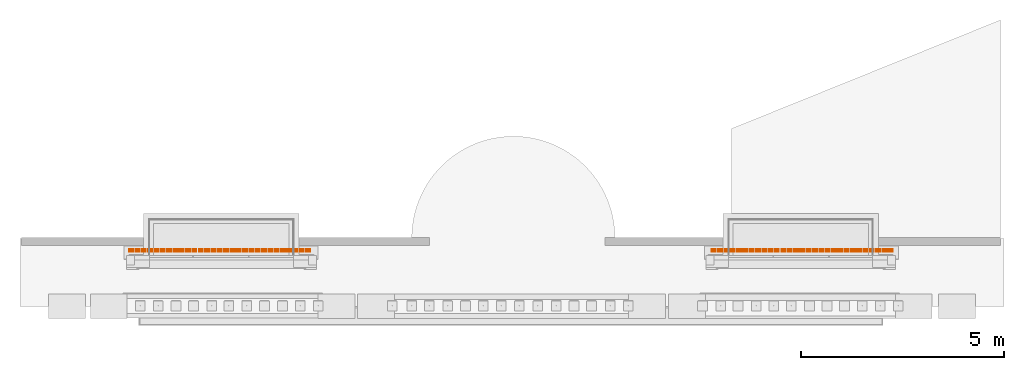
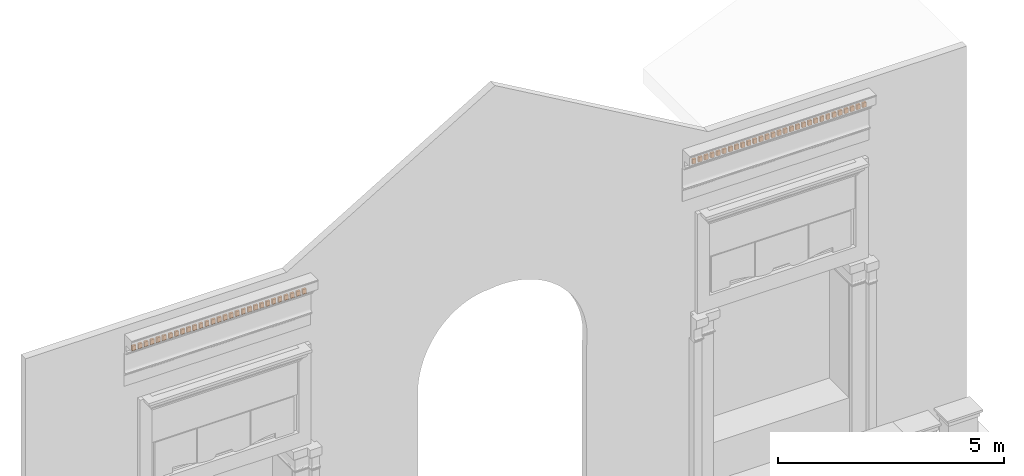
# One storey, part 8 of 14: 1 proxy.
"""IFC2X3 building model written with IfcOpenShell, lengths in metres."""

from ifc_helpers import new_model, entity, si_unit, converted_unit, derived_unit, direction, frame, frame_2d, origin, place, context, subcontext, project, spatial, rectangle, extrude, source, transform, mapped, material, type_object, type_shapes, element, save


model = new_model("IFC2X3")

# Units and contexts
model_context = context("Model", 3, precision=1e-05, world=origin(), true_north=direction((6.12303176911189e-17, 1.0)))
body_context = subcontext(model_context, "Body", "Model", "MODEL_VIEW")
ifc_project = project(units=[si_unit("LENGTHUNIT", "METRE"), si_unit("AREAUNIT", "SQUARE_METRE"), si_unit("VOLUMEUNIT", "CUBIC_METRE"), converted_unit("PLANEANGLEUNIT", "DEGREE", entity("IfcRatioMeasure", 0.0174532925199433), si_unit("PLANEANGLEUNIT", "RADIAN"), dimensions=[0, 0, 0, 0, 0, 0, 0]), si_unit("MASSUNIT", "GRAM", prefix="KILO"), derived_unit("MASSDENSITYUNIT", [(si_unit("MASSUNIT", "GRAM", prefix="KILO"), 1), (si_unit("LENGTHUNIT", "METRE"), -3)]), si_unit("TIMEUNIT", "SECOND"), si_unit("FREQUENCYUNIT", "HERTZ"), si_unit("THERMODYNAMICTEMPERATUREUNIT", "DEGREE_CELSIUS"), derived_unit("THERMALTRANSMITTANCEUNIT", [(si_unit("MASSUNIT", "GRAM", prefix="KILO"), 1), (si_unit("THERMODYNAMICTEMPERATUREUNIT", "KELVIN"), -1), (si_unit("TIMEUNIT", "SECOND"), -3)]), derived_unit("VOLUMETRICFLOWRATEUNIT", [(si_unit("LENGTHUNIT", "METRE"), 3), (si_unit("TIMEUNIT", "SECOND"), -1)]), si_unit("ELECTRICCURRENTUNIT", "AMPERE"), si_unit("ELECTRICVOLTAGEUNIT", "VOLT"), si_unit("POWERUNIT", "WATT"), si_unit("FORCEUNIT", "NEWTON", prefix="KILO"), si_unit("ILLUMINANCEUNIT", "LUX"), si_unit("LUMINOUSFLUXUNIT", "LUMEN"), si_unit("LUMINOUSINTENSITYUNIT", "CANDELA"), derived_unit("USERDEFINED", [(si_unit("MASSUNIT", "GRAM", prefix="KILO"), -1), (si_unit("LENGTHUNIT", "METRE"), -2), (si_unit("TIMEUNIT", "SECOND"), 3), (si_unit("LUMINOUSFLUXUNIT", "LUMEN"), 1)]), derived_unit("LINEARVELOCITYUNIT", [(si_unit("LENGTHUNIT", "METRE"), 1), (si_unit("TIMEUNIT", "SECOND"), -1)]), si_unit("PRESSUREUNIT", "PASCAL"), derived_unit("USERDEFINED", [(si_unit("LENGTHUNIT", "METRE"), -2), (si_unit("MASSUNIT", "GRAM", prefix="KILO"), 1), (si_unit("TIMEUNIT", "SECOND"), -2)])], contexts=[model_context])

# Site, building, storey
site_placement = place(None, origin())
site = spatial("IfcSite", under=ifc_project, at=site_placement, Name="Default", CompositionType="ELEMENT")
building_placement = place(site_placement, origin())
building = spatial("IfcBuilding", under=site, at=building_placement, CompositionType="ELEMENT")
storey_placement = place(building_placement, frame((0.0, 0.0, 13.366833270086)))
storey = spatial("IfcBuildingStorey", under=building, at=storey_placement, Name="Livello 2", CompositionType="ELEMENT", Elevation=13.366833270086)

# Proxy
ifc_material = material(Name="Piperno")
building_element_proxy_type = type_object("IfcBuildingElementProxyType", Name="Dentelli", PredefinedType="NOTDEFINED", material=ifc_material)
shared_shape = source(origin(), body_context, "Body", "SweptSolid", [
    extrude(rectangle(XDim=0.0534615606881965, YDim=0.0951819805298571, at=frame_2d((-1.35308431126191e-16, 0.0), x_axis=(1.0, 0.0))), frame((18.7313561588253, 0.0267307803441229, 0.0279844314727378), z_axis=(0.0, 0.0, 1.0), x_axis=(0.0, 1.0, 0.0)), (0.0, 0.0, 1.0), 0.126428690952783),
    extrude(rectangle(XDim=0.0534615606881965, YDim=0.0951819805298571, at=frame_2d((-1.35308431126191e-16, 0.0), x_axis=(1.0, 0.0))), frame((18.5766416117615, 0.0267307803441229, 0.0279844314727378), z_axis=(0.0, 0.0, 1.0), x_axis=(0.0, 1.0, 0.0)), (0.0, 0.0, 1.0), 0.126428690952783),
    extrude(rectangle(XDim=0.0534615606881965, YDim=0.0951819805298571, at=frame_2d((-1.35308431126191e-16, 0.0), x_axis=(1.0, 0.0))), frame((18.4219270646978, 0.0267307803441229, 0.0279844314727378), z_axis=(0.0, 0.0, 1.0), x_axis=(0.0, 1.0, 0.0)), (0.0, 0.0, 1.0), 0.126428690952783),
    extrude(rectangle(XDim=0.0534615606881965, YDim=0.0951819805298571, at=frame_2d((-1.35308431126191e-16, 0.0), x_axis=(1.0, 0.0))), frame((18.267212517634, 0.0267307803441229, 0.0279844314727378), z_axis=(0.0, 0.0, 1.0), x_axis=(0.0, 1.0, 0.0)), (0.0, 0.0, 1.0), 0.126428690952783),
    extrude(rectangle(XDim=0.0534615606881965, YDim=0.0951819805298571, at=frame_2d((-1.35308431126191e-16, 0.0), x_axis=(1.0, 0.0))), frame((18.1124979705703, 0.0267307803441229, 0.0279844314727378), z_axis=(0.0, 0.0, 1.0), x_axis=(0.0, 1.0, 0.0)), (0.0, 0.0, 1.0), 0.126428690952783),
    extrude(rectangle(XDim=0.0534615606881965, YDim=0.0951819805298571, at=frame_2d((-1.35308431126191e-16, 0.0), x_axis=(1.0, 0.0))), frame((17.9577834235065, 0.0267307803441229, 0.0279844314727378), z_axis=(0.0, 0.0, 1.0), x_axis=(0.0, 1.0, 0.0)), (0.0, 0.0, 1.0), 0.126428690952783),
    extrude(rectangle(XDim=0.0534615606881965, YDim=0.0951819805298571, at=frame_2d((-1.35308431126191e-16, 0.0), x_axis=(1.0, 0.0))), frame((17.8030688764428, 0.0267307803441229, 0.0279844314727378), z_axis=(0.0, 0.0, 1.0), x_axis=(0.0, 1.0, 0.0)), (0.0, 0.0, 1.0), 0.126428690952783),
    extrude(rectangle(XDim=0.0534615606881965, YDim=0.0951819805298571, at=frame_2d((-1.35308431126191e-16, 0.0), x_axis=(1.0, 0.0))), frame((17.6483543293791, 0.0267307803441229, 0.0279844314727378), z_axis=(0.0, 0.0, 1.0), x_axis=(0.0, 1.0, 0.0)), (0.0, 0.0, 1.0), 0.126428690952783),
    extrude(rectangle(XDim=0.0534615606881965, YDim=0.0951819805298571, at=frame_2d((-1.35308431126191e-16, 0.0), x_axis=(1.0, 0.0))), frame((17.4888420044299, 0.0267307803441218, 0.0279844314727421), z_axis=(0.0, 0.0, 1.0), x_axis=(0.0, 1.0, 0.0)), (0.0, 0.0, 1.0), 0.126428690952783),
    extrude(rectangle(XDim=0.0534615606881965, YDim=0.0951819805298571, at=frame_2d((-1.35308431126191e-16, 0.0), x_axis=(1.0, 0.0))), frame((17.3341274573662, 0.0267307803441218, 0.0279844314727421), z_axis=(0.0, 0.0, 1.0), x_axis=(0.0, 1.0, 0.0)), (0.0, 0.0, 1.0), 0.126428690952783),
    extrude(rectangle(XDim=0.0534615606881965, YDim=0.0951819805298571, at=frame_2d((-1.35308431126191e-16, 0.0), x_axis=(1.0, 0.0))), frame((17.1794129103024, 0.0267307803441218, 0.0279844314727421), z_axis=(0.0, 0.0, 1.0), x_axis=(0.0, 1.0, 0.0)), (0.0, 0.0, 1.0), 0.126428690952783),
    extrude(rectangle(XDim=0.0534615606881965, YDim=0.0951819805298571, at=frame_2d((-1.35308431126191e-16, 0.0), x_axis=(1.0, 0.0))), frame((17.0246983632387, 0.0267307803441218, 0.0279844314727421), z_axis=(0.0, 0.0, 1.0), x_axis=(0.0, 1.0, 0.0)), (0.0, 0.0, 1.0), 0.126428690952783),
    extrude(rectangle(XDim=0.0534615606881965, YDim=0.0951819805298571, at=frame_2d((-1.35308431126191e-16, 0.0), x_axis=(1.0, 0.0))), frame((16.8699838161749, 0.0267307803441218, 0.0279844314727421), z_axis=(0.0, 0.0, 1.0), x_axis=(0.0, 1.0, 0.0)), (0.0, 0.0, 1.0), 0.126428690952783),
    extrude(rectangle(XDim=0.0534615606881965, YDim=0.0951819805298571, at=frame_2d((-1.35308431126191e-16, 0.0), x_axis=(1.0, 0.0))), frame((16.7104714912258, 0.0267307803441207, 0.0279844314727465), z_axis=(0.0, 0.0, 1.0), x_axis=(0.0, 1.0, 0.0)), (0.0, 0.0, 1.0), 0.126428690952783),
    extrude(rectangle(XDim=0.0534615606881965, YDim=0.0951819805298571, at=frame_2d((-1.35308431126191e-16, 0.0), x_axis=(1.0, 0.0))), frame((16.5557569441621, 0.0267307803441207, 0.0279844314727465), z_axis=(0.0, 0.0, 1.0), x_axis=(0.0, 1.0, 0.0)), (0.0, 0.0, 1.0), 0.126428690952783),
    extrude(rectangle(XDim=0.0534615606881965, YDim=0.0951819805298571, at=frame_2d((-1.35308431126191e-16, 0.0), x_axis=(1.0, 0.0))), frame((16.4010423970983, 0.0267307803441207, 0.0279844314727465), z_axis=(0.0, 0.0, 1.0), x_axis=(0.0, 1.0, 0.0)), (0.0, 0.0, 1.0), 0.126428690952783),
    extrude(rectangle(XDim=0.0534615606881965, YDim=0.0951819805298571, at=frame_2d((-1.35308431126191e-16, 0.0), x_axis=(1.0, 0.0))), frame((16.2463278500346, 0.0267307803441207, 0.0279844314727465), z_axis=(0.0, 0.0, 1.0), x_axis=(0.0, 1.0, 0.0)), (0.0, 0.0, 1.0), 0.126428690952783),
    extrude(rectangle(XDim=0.0534615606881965, YDim=0.0951819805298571, at=frame_2d((-1.35308431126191e-16, 0.0), x_axis=(1.0, 0.0))), frame((16.0916133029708, 0.0267307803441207, 0.0279844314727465), z_axis=(0.0, 0.0, 1.0), x_axis=(0.0, 1.0, 0.0)), (0.0, 0.0, 1.0), 0.126428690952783),
    extrude(rectangle(XDim=0.0534615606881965, YDim=0.0951819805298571, at=frame_2d((-1.35308431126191e-16, 0.0), x_axis=(1.0, 0.0))), frame((15.9321009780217, 0.0267307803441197, 0.0279844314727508), z_axis=(0.0, 0.0, 1.0), x_axis=(0.0, 1.0, 0.0)), (0.0, 0.0, 1.0), 0.126428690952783),
    extrude(rectangle(XDim=0.0534615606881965, YDim=0.0951819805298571, at=frame_2d((-1.35308431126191e-16, 0.0), x_axis=(1.0, 0.0))), frame((15.777386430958, 0.0267307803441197, 0.0279844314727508), z_axis=(0.0, 0.0, 1.0), x_axis=(0.0, 1.0, 0.0)), (0.0, 0.0, 1.0), 0.126428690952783),
    extrude(rectangle(XDim=0.0534615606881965, YDim=0.0951819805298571, at=frame_2d((-1.35308431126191e-16, 0.0), x_axis=(1.0, 0.0))), frame((15.6226718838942, 0.0267307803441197, 0.0279844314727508), z_axis=(0.0, 0.0, 1.0), x_axis=(0.0, 1.0, 0.0)), (0.0, 0.0, 1.0), 0.126428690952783),
    extrude(rectangle(XDim=0.0534615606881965, YDim=0.0951819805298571, at=frame_2d((-1.35308431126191e-16, 0.0), x_axis=(1.0, 0.0))), frame((15.4679573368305, 0.0267307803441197, 0.0279844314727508), z_axis=(0.0, 0.0, 1.0), x_axis=(0.0, 1.0, 0.0)), (0.0, 0.0, 1.0), 0.126428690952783),
    extrude(rectangle(XDim=0.0534615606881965, YDim=0.0951819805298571, at=frame_2d((-1.35308431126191e-16, 0.0), x_axis=(1.0, 0.0))), frame((15.3132427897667, 0.0267307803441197, 0.0279844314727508), z_axis=(0.0, 0.0, 1.0), x_axis=(0.0, 1.0, 0.0)), (0.0, 0.0, 1.0), 0.126428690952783),
    extrude(rectangle(XDim=0.0534615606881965, YDim=0.0951819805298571, at=frame_2d((-1.35308431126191e-16, 0.0), x_axis=(1.0, 0.0))), frame((15.1537304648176, 0.0267307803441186, 0.0279844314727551), z_axis=(0.0, 0.0, 1.0), x_axis=(0.0, 1.0, 0.0)), (0.0, 0.0, 1.0), 0.126428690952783),
    extrude(rectangle(XDim=0.0534615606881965, YDim=0.0951819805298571, at=frame_2d((-1.35308431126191e-16, 0.0), x_axis=(1.0, 0.0))), frame((14.9990159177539, 0.0267307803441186, 0.0279844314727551), z_axis=(0.0, 0.0, 1.0), x_axis=(0.0, 1.0, 0.0)), (0.0, 0.0, 1.0), 0.126428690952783),
    extrude(rectangle(XDim=0.0534615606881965, YDim=0.0951819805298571, at=frame_2d((-1.35308431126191e-16, 0.0), x_axis=(1.0, 0.0))), frame((14.8443013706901, 0.0267307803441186, 0.0279844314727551), z_axis=(0.0, 0.0, 1.0), x_axis=(0.0, 1.0, 0.0)), (0.0, 0.0, 1.0), 0.126428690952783),
    extrude(rectangle(XDim=0.0534615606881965, YDim=0.0951819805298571, at=frame_2d((-1.35308431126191e-16, 0.0), x_axis=(1.0, 0.0))), frame((14.6895868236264, 0.0267307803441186, 0.0279844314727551), z_axis=(0.0, 0.0, 1.0), x_axis=(0.0, 1.0, 0.0)), (0.0, 0.0, 1.0), 0.126428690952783),
    extrude(rectangle(XDim=0.0534615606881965, YDim=0.0951819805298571, at=frame_2d((-1.35308431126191e-16, 0.0), x_axis=(1.0, 0.0))), frame((14.5348722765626, 0.0267307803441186, 0.0279844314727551), z_axis=(0.0, 0.0, 1.0), x_axis=(0.0, 1.0, 0.0)), (0.0, 0.0, 1.0), 0.126428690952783),
    extrude(rectangle(XDim=0.0534615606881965, YDim=0.0951819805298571, at=frame_2d((-1.35308431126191e-16, 0.0), x_axis=(1.0, 0.0))), frame((14.3753599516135, 0.0267307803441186, 0.0279844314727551), z_axis=(0.0, 0.0, 1.0), x_axis=(0.0, 1.0, 0.0)), (0.0, 0.0, 1.0), 0.126428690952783),
    extrude(rectangle(XDim=0.0534615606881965, YDim=0.0951819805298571, at=frame_2d((1.35308431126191e-16, 0.0), x_axis=(1.0, 0.0))), frame((4.40358719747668, 0.0267307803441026, 0.0), z_axis=(0.0, 0.0, 1.0), x_axis=(0.0, 1.0, 0.0)), (0.0, 0.0, 1.0), 0.126428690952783),
    extrude(rectangle(XDim=0.0534615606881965, YDim=0.0951819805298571, at=frame_2d((1.35308431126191e-16, 0.0), x_axis=(1.0, 0.0))), frame((4.24887265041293, 0.0267307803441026, 0.0), z_axis=(0.0, 0.0, 1.0), x_axis=(0.0, 1.0, 0.0)), (0.0, 0.0, 1.0), 0.126428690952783),
    extrude(rectangle(XDim=0.0534615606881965, YDim=0.0951819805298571, at=frame_2d((1.35308431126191e-16, 0.0), x_axis=(1.0, 0.0))), frame((4.09415810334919, 0.0267307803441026, 0.0), z_axis=(0.0, 0.0, 1.0), x_axis=(0.0, 1.0, 0.0)), (0.0, 0.0, 1.0), 0.126428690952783),
    extrude(rectangle(XDim=0.0534615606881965, YDim=0.0951819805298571, at=frame_2d((1.35308431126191e-16, 0.0), x_axis=(1.0, 0.0))), frame((3.93944355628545, 0.0267307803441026, 0.0), z_axis=(0.0, 0.0, 1.0), x_axis=(0.0, 1.0, 0.0)), (0.0, 0.0, 1.0), 0.126428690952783),
    extrude(rectangle(XDim=0.0534615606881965, YDim=0.0951819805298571, at=frame_2d((1.35308431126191e-16, 0.0), x_axis=(1.0, 0.0))), frame((3.78472900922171, 0.0267307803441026, 0.0), z_axis=(0.0, 0.0, 1.0), x_axis=(0.0, 1.0, 0.0)), (0.0, 0.0, 1.0), 0.126428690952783),
    extrude(rectangle(XDim=0.0534615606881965, YDim=0.0951819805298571, at=frame_2d((1.35308431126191e-16, 0.0), x_axis=(1.0, 0.0))), frame((3.63001446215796, 0.0267307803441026, 0.0), z_axis=(0.0, 0.0, 1.0), x_axis=(0.0, 1.0, 0.0)), (0.0, 0.0, 1.0), 0.126428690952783),
    extrude(rectangle(XDim=0.0534615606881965, YDim=0.0951819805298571, at=frame_2d((1.35308431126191e-16, 0.0), x_axis=(1.0, 0.0))), frame((3.47529991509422, 0.0267307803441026, 0.0), z_axis=(0.0, 0.0, 1.0), x_axis=(0.0, 1.0, 0.0)), (0.0, 0.0, 1.0), 0.126428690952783),
    extrude(rectangle(XDim=0.0534615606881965, YDim=0.0951819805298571, at=frame_2d((1.35308431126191e-16, 0.0), x_axis=(1.0, 0.0))), frame((3.32058536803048, 0.0267307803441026, 0.0), z_axis=(0.0, 0.0, 1.0), x_axis=(0.0, 1.0, 0.0)), (0.0, 0.0, 1.0), 0.126428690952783),
    extrude(rectangle(XDim=0.0534615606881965, YDim=0.0951819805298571, at=frame_2d((1.35308431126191e-16, 0.0), x_axis=(1.0, 0.0))), frame((3.16107304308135, 0.0267307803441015, 0.0), z_axis=(0.0, 0.0, 1.0), x_axis=(0.0, 1.0, 0.0)), (0.0, 0.0, 1.0), 0.126428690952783),
    extrude(rectangle(XDim=0.0534615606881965, YDim=0.0951819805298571, at=frame_2d((1.35308431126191e-16, 0.0), x_axis=(1.0, 0.0))), frame((3.0063584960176, 0.0267307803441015, 0.0), z_axis=(0.0, 0.0, 1.0), x_axis=(0.0, 1.0, 0.0)), (0.0, 0.0, 1.0), 0.126428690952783),
    extrude(rectangle(XDim=0.0534615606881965, YDim=0.0951819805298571, at=frame_2d((1.35308431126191e-16, 0.0), x_axis=(1.0, 0.0))), frame((2.85164394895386, 0.0267307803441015, 0.0), z_axis=(0.0, 0.0, 1.0), x_axis=(0.0, 1.0, 0.0)), (0.0, 0.0, 1.0), 0.126428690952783),
    extrude(rectangle(XDim=0.0534615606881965, YDim=0.0951819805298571, at=frame_2d((1.35308431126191e-16, 0.0), x_axis=(1.0, 0.0))), frame((2.69692940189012, 0.0267307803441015, 0.0), z_axis=(0.0, 0.0, 1.0), x_axis=(0.0, 1.0, 0.0)), (0.0, 0.0, 1.0), 0.126428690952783),
    extrude(rectangle(XDim=0.0534615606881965, YDim=0.0951819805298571, at=frame_2d((1.35308431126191e-16, 0.0), x_axis=(1.0, 0.0))), frame((2.54221485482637, 0.0267307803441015, 0.0), z_axis=(0.0, 0.0, 1.0), x_axis=(0.0, 1.0, 0.0)), (0.0, 0.0, 1.0), 0.126428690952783),
    extrude(rectangle(XDim=0.0534615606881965, YDim=0.0951819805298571, at=frame_2d((1.35308431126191e-16, 0.0), x_axis=(1.0, 0.0))), frame((2.38270252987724, 0.0267307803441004, 0.0), z_axis=(0.0, 0.0, 1.0), x_axis=(0.0, 1.0, 0.0)), (0.0, 0.0, 1.0), 0.126428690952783),
    extrude(rectangle(XDim=0.0534615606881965, YDim=0.0951819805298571, at=frame_2d((1.35308431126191e-16, 0.0), x_axis=(1.0, 0.0))), frame((2.2279879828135, 0.0267307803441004, 0.0), z_axis=(0.0, 0.0, 1.0), x_axis=(0.0, 1.0, 0.0)), (0.0, 0.0, 1.0), 0.126428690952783),
    extrude(rectangle(XDim=0.0534615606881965, YDim=0.0951819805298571, at=frame_2d((1.35308431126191e-16, 0.0), x_axis=(1.0, 0.0))), frame((2.07327343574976, 0.0267307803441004, 0.0), z_axis=(0.0, 0.0, 1.0), x_axis=(0.0, 1.0, 0.0)), (0.0, 0.0, 1.0), 0.126428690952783),
    extrude(rectangle(XDim=0.0534615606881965, YDim=0.0951819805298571, at=frame_2d((1.35308431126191e-16, 0.0), x_axis=(1.0, 0.0))), frame((1.91855888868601, 0.0267307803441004, 0.0), z_axis=(0.0, 0.0, 1.0), x_axis=(0.0, 1.0, 0.0)), (0.0, 0.0, 1.0), 0.126428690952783),
    extrude(rectangle(XDim=0.0534615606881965, YDim=0.0951819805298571, at=frame_2d((1.35308431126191e-16, 0.0), x_axis=(1.0, 0.0))), frame((1.76384434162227, 0.0267307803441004, 0.0), z_axis=(0.0, 0.0, 1.0), x_axis=(0.0, 1.0, 0.0)), (0.0, 0.0, 1.0), 0.126428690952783),
    extrude(rectangle(XDim=0.0534615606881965, YDim=0.0951819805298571, at=frame_2d((1.35308431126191e-16, 0.0), x_axis=(1.0, 0.0))), frame((1.60433201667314, 0.0267307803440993, 0.0), z_axis=(0.0, 0.0, 1.0), x_axis=(0.0, 1.0, 0.0)), (0.0, 0.0, 1.0), 0.126428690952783),
    extrude(rectangle(XDim=0.0534615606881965, YDim=0.0951819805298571, at=frame_2d((1.35308431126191e-16, 0.0), x_axis=(1.0, 0.0))), frame((1.44961746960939, 0.0267307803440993, 0.0), z_axis=(0.0, 0.0, 1.0), x_axis=(0.0, 1.0, 0.0)), (0.0, 0.0, 1.0), 0.126428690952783),
    extrude(rectangle(XDim=0.0534615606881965, YDim=0.0951819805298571, at=frame_2d((1.35308431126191e-16, 0.0), x_axis=(1.0, 0.0))), frame((1.29490292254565, 0.0267307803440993, 0.0), z_axis=(0.0, 0.0, 1.0), x_axis=(0.0, 1.0, 0.0)), (0.0, 0.0, 1.0), 0.126428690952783),
    extrude(rectangle(XDim=0.0534615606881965, YDim=0.0951819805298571, at=frame_2d((1.35308431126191e-16, 0.0), x_axis=(1.0, 0.0))), frame((1.14018837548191, 0.0267307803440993, 0.0), z_axis=(0.0, 0.0, 1.0), x_axis=(0.0, 1.0, 0.0)), (0.0, 0.0, 1.0), 0.126428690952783),
    extrude(rectangle(XDim=0.0534615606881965, YDim=0.0951819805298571, at=frame_2d((1.35308431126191e-16, 0.0), x_axis=(1.0, 0.0))), frame((0.985473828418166, 0.0267307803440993, 0.0), z_axis=(0.0, 0.0, 1.0), x_axis=(0.0, 1.0, 0.0)), (0.0, 0.0, 1.0), 0.126428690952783),
    extrude(rectangle(XDim=0.0534615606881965, YDim=0.0951819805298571, at=frame_2d((1.35308431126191e-16, 0.0), x_axis=(1.0, 0.0))), frame((0.825961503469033, 0.0267307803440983, 0.0), z_axis=(0.0, 0.0, 1.0), x_axis=(0.0, 1.0, 0.0)), (0.0, 0.0, 1.0), 0.126428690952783),
    extrude(rectangle(XDim=0.0534615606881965, YDim=0.0951819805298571, at=frame_2d((1.35308431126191e-16, 0.0), x_axis=(1.0, 0.0))), frame((0.67124695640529, 0.0267307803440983, 0.0), z_axis=(0.0, 0.0, 1.0), x_axis=(0.0, 1.0, 0.0)), (0.0, 0.0, 1.0), 0.126428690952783),
    extrude(rectangle(XDim=0.0534615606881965, YDim=0.0951819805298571, at=frame_2d((1.35308431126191e-16, 0.0), x_axis=(1.0, 0.0))), frame((0.516532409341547, 0.0267307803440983, 0.0), z_axis=(0.0, 0.0, 1.0), x_axis=(0.0, 1.0, 0.0)), (0.0, 0.0, 1.0), 0.126428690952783),
    extrude(rectangle(XDim=0.0534615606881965, YDim=0.0951819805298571, at=frame_2d((1.35308431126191e-16, 0.0), x_axis=(1.0, 0.0))), frame((0.361817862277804, 0.0267307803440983, 0.0), z_axis=(0.0, 0.0, 1.0), x_axis=(0.0, 1.0, 0.0)), (0.0, 0.0, 1.0), 0.126428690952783),
    extrude(rectangle(XDim=0.0534615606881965, YDim=0.0951819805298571, at=frame_2d((1.35308431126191e-16, 0.0), x_axis=(1.0, 0.0))), frame((0.207103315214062, 0.0267307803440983, 0.0), z_axis=(0.0, 0.0, 1.0), x_axis=(0.0, 1.0, 0.0)), (0.0, 0.0, 1.0), 0.126428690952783),
    extrude(rectangle(XDim=0.0534615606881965, YDim=0.0951819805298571, at=frame_2d((1.35308431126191e-16, 0.0), x_axis=(1.0, 0.0))), frame((0.0475909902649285, 0.0267307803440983, 0.0), z_axis=(0.0, 0.0, 1.0), x_axis=(0.0, 1.0, 0.0)), (0.0, 0.0, 1.0), 0.126428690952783),
])
type_shapes(building_element_proxy_type, [shared_shape])
proxy_placement = place(storey_placement, frame((-9.43617070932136, 1.11991117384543, 9.30210155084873)))
element("IfcBuildingElementProxy", 1, at=proxy_placement, inside=storey, type_object=building_element_proxy_type, material=ifc_material, Name="Dentelli Cornice:Dentelli", ObjectType="Dentelli", context=body_context, shape_type="MappedRepresentation", body=[
    mapped(shared_shape, transform((0.0, 0.0, 0.0), scale=1.0)),
])

save(model, "model.ifc")
